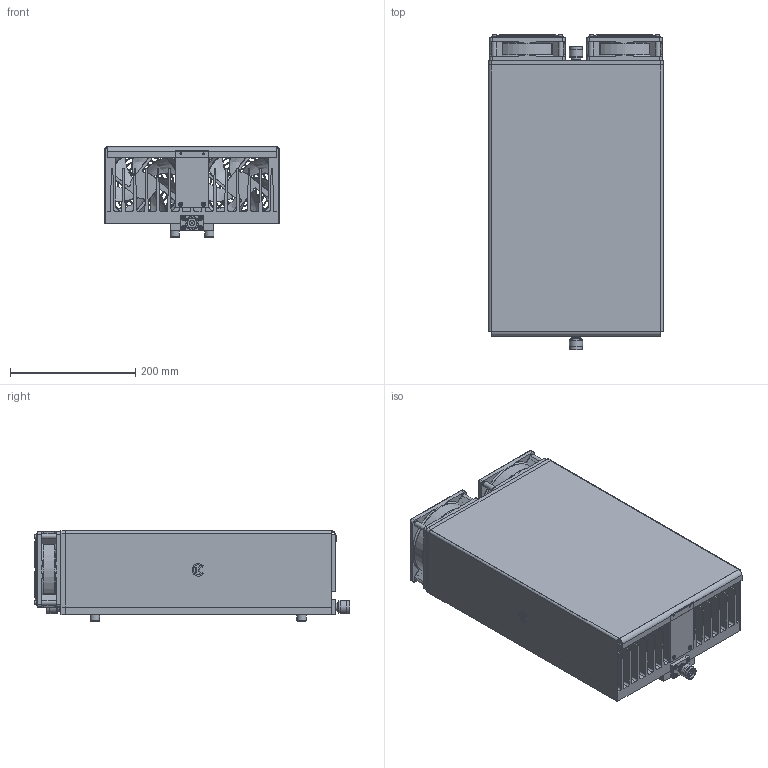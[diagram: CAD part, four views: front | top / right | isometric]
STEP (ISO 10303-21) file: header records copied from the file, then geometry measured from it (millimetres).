
FILE_DESCRIPTION(('STEP AP203'), '1');
FILE_NAME('栖闉罻 1500 鎗', '', ('UNSPECIFIED'), ('UNSPECIFIED'), 'C3D Converter', 'C3D Toolkit', '');
FILE_SCHEMA(('CONFIG_CONTROL_DESIGN'));
Length unit declared in the file: millimetre
Products named in the file (21): -01; Вентилятор 120x120x25; Вентилятор_винт 120х120х25; Вентилятор_основа 120х120х25
Assembly tree (57 placements, depth 3):
  (unnamed)
    (unnamed)
    (unnamed)
    (unnamed)
    (unnamed)
    (unnamed)
    (unnamed)
    -01
    (unnamed)
    Вентилятор 120x120x25  x2
      Вентилятор_винт 120х120х25
      Вентилятор_основа 120х120х25
    (unnamed)  x10
    -01  x6
    (unnamed)
    -01
    (unnamed)  x21
    (unnamed)  x2
    -01  x2
    (unnamed)
    -01
Bounding box: 278 x 503.15 x 144 mm (x, y, z)
Volume: 4934731 mm3; surface area: 1906064.7 mm2
Topology: 57 solids, 57 shells, 3042 faces, 8136 edges, 4958 vertices
Faces by surface type: plane 1181, bspline 816, cylinder 715, torus 190, cone 140
Full cylindrical faces by diameter (mm): 1.65 x2, 2.459 x25, 2.5 x3, 3 x22, 3.04 x2, 3.2 x2, 3.242 x8, 3.5 x8, 4.134 x16, 5 x16, 5.5 x57, 6 x1, 7 x12, 8 x1, 8.04 x2, 8.5 x20, 9 x2, 10 x17, 11.6 x2, 12.7 x2, 14.94 x2, 15 x4, 15.75 x2, 16 x4, 16.5 x2, 17.46 x2, 17.8 x2, 19.8 x4, 20 x6, 20.85 x2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
Entity records: 83253 total; most frequent: CARTESIAN_POINT 24860, ORIENTED_EDGE 9096, DIRECTION 8104, EDGE_CURVE 4548, AXIS2_PLACEMENT_3D 3104, VERTEX_POINT 3026, EDGE_LOOP 2412, FACE_BOUND 2101
